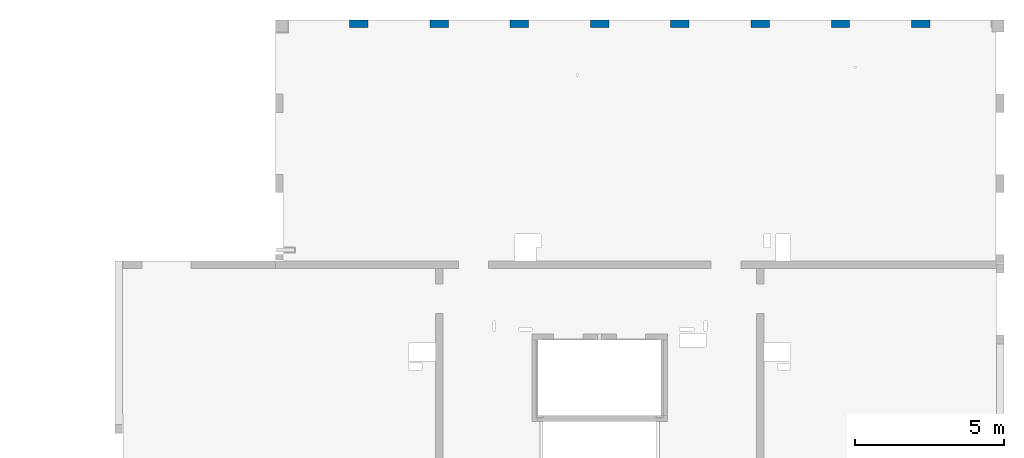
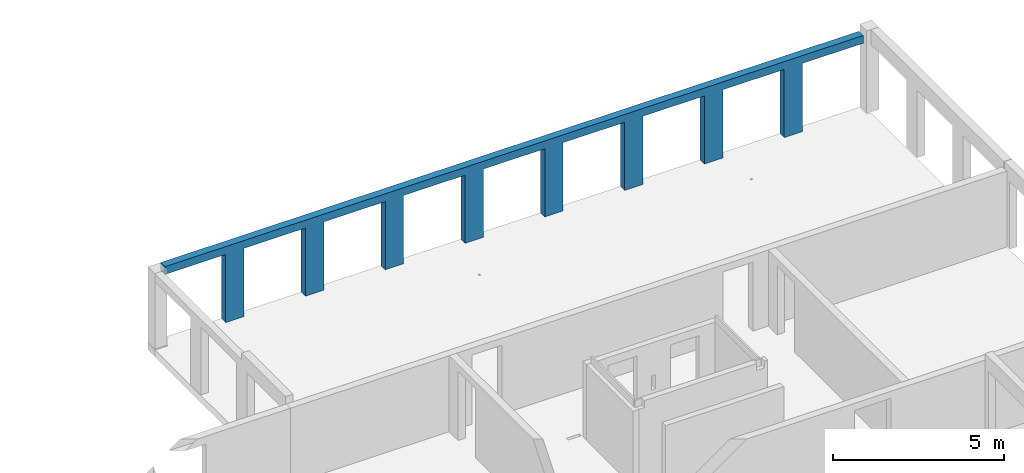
# One storey, part 5 of 9: 1 wall, 9 openings.
"""IFC2X3 building model written with IfcOpenShell, lengths in millimetres."""

from ifc_helpers import new_model, entity, si_unit, converted_unit, derived_unit, direction, frame, frame_2d, origin, place, context, subcontext, project, spatial, rectangle, extrude, material, layer, layer_set, layer_usage, type_object, element, save


model = new_model("IFC2X3")

# Units and contexts
model_context = context("Model", 3, precision=0.01, world=origin(), true_north=direction((6.12303176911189e-17, 1.0)))
body_context = subcontext(model_context, "Body", "Model", "MODEL_VIEW")
ifc_project = project(units=[si_unit("LENGTHUNIT", "METRE", prefix="MILLI"), si_unit("AREAUNIT", "SQUARE_METRE"), si_unit("VOLUMEUNIT", "CUBIC_METRE"), converted_unit("PLANEANGLEUNIT", "DEGREE", entity("IfcRatioMeasure", 0.0174532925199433), si_unit("PLANEANGLEUNIT", "RADIAN"), dimensions=[0, 0, 0, 0, 0, 0, 0]), si_unit("MASSUNIT", "GRAM", prefix="KILO"), derived_unit("MASSDENSITYUNIT", [(si_unit("MASSUNIT", "GRAM", prefix="KILO"), 1), (si_unit("LENGTHUNIT", "METRE"), -3)]), si_unit("TIMEUNIT", "SECOND"), si_unit("FREQUENCYUNIT", "HERTZ"), si_unit("THERMODYNAMICTEMPERATUREUNIT", "DEGREE_CELSIUS"), derived_unit("THERMALTRANSMITTANCEUNIT", [(si_unit("MASSUNIT", "GRAM", prefix="KILO"), 1), (si_unit("THERMODYNAMICTEMPERATUREUNIT", "KELVIN"), -1), (si_unit("TIMEUNIT", "SECOND"), -3)]), derived_unit("VOLUMETRICFLOWRATEUNIT", [(si_unit("LENGTHUNIT", "METRE"), 3), (si_unit("TIMEUNIT", "SECOND"), -1)]), si_unit("ELECTRICCURRENTUNIT", "AMPERE"), si_unit("ELECTRICVOLTAGEUNIT", "VOLT"), si_unit("POWERUNIT", "WATT"), si_unit("FORCEUNIT", "NEWTON", prefix="KILO"), si_unit("ILLUMINANCEUNIT", "LUX"), si_unit("LUMINOUSFLUXUNIT", "LUMEN"), si_unit("LUMINOUSINTENSITYUNIT", "CANDELA"), derived_unit("USERDEFINED", [(si_unit("MASSUNIT", "GRAM", prefix="KILO"), -1), (si_unit("LENGTHUNIT", "METRE"), -2), (si_unit("TIMEUNIT", "SECOND"), 3), (si_unit("LUMINOUSFLUXUNIT", "LUMEN"), 1)]), derived_unit("LINEARVELOCITYUNIT", [(si_unit("LENGTHUNIT", "METRE"), 1), (si_unit("TIMEUNIT", "SECOND"), -1)]), si_unit("PRESSUREUNIT", "PASCAL"), derived_unit("USERDEFINED", [(si_unit("LENGTHUNIT", "METRE"), -2), (si_unit("MASSUNIT", "GRAM", prefix="KILO"), 1), (si_unit("TIMEUNIT", "SECOND"), -2)])], contexts=[model_context])

# Site, building, storey
site_placement = place(None, origin())
site = spatial("IfcSite", under=ifc_project, at=site_placement, Name="Default", CompositionType="ELEMENT")
building_placement = place(site_placement, origin())
building = spatial("IfcBuilding", under=site, at=building_placement, Name="niet gebruiken", CompositionType="ELEMENT")
storey_placement = place(building_placement, frame((0.0, 0.0, 33390.0)))
storey = spatial("IfcBuildingStorey", under=building, at=storey_placement, Name="11 elfde verdieping", CompositionType="ELEMENT", Elevation=33390.0)

# Wall, openings
ifc_material = material(Name="NLRS_f2_beton ihwg")
ifc_layer = layer(ifc_material, 250.0)
ifc_layer_set = layer_set([ifc_layer], Name="Basic Wall:NLRS_21.21_WA_beton ihwg d=250_gen")
ifc_layer_usage = layer_usage(ifc_layer_set, "AXIS2", "NEGATIVE", 125.0)
wall_type = type_object("IfcWallType", Name="Basic Wall:NLRS_21.21_WA_beton ihwg d=250_gen", PredefinedType="STANDARD", material=ifc_layer_set)
wall_placement = place(storey_placement, frame((104970.0, 53131.0, -90.0), z_axis=(0.0, 0.0, 1.0), x_axis=(-1.0, 0.0, 0.0)))
wall = element("IfcWallStandardCase", 1, at=wall_placement, inside=storey, type_object=wall_type, material=ifc_layer_usage, Name="Basic Wall:NLRS_21.21_WA_beton ihwg d=250_gen", ObjectType="Basic Wall:NLRS_21.21_WA_beton ihwg d=250_gen", context=body_context, shape_type="SweptSolid", body=[
    extrude(rectangle(XDim=23640.0000000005, YDim=249.999999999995, at=frame_2d((11820.0000000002, 5.82645043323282e-13), x_axis=(-1.0, 0.0))), origin(), (0.0, 0.0, 1.0), 2720.00000000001),
])
opening_1_placement = place(wall_placement, origin())
element("IfcOpeningElement", 2, at=opening_1_placement, cuts=wall, Name="Basic Wall:NLRS_21.21_WA_beton ihwg d=250_gen", ObjectType="Opening", context=body_context, shape_type="SweptSolid", body=[
    extrude(rectangle(XDim=2440.0, YDim=2080.0, at=frame_2d((-8.64019966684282e-12, -2.1600499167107e-12), x_axis=(0.0, 1.0))), frame((22620.0, -1399.0, 1220.0), z_axis=(0.0, 1.0, 0.0), x_axis=(-1.0, 0.0, 0.0)), (0.0, 0.0, 1.0), 3048.0),
])
opening_2_placement = place(wall_placement, origin())
element("IfcOpeningElement", 3, at=opening_2_placement, cuts=wall, Name="Basic Wall:NLRS_21.21_WA_beton ihwg d=250_gen", ObjectType="Opening", context=body_context, shape_type="SweptSolid", body=[
    extrude(rectangle(XDim=2440.0, YDim=2080.0, at=frame_2d((-8.64019966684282e-12, 0.0), x_axis=(0.0, 1.0))), frame((19920.0, -1399.0, 1220.0), z_axis=(0.0, 1.0, 0.0), x_axis=(-1.0, 0.0, 0.0)), (0.0, 0.0, 1.0), 3048.0),
])
opening_3_placement = place(wall_placement, origin())
element("IfcOpeningElement", 4, at=opening_3_placement, cuts=wall, Name="Basic Wall:NLRS_21.21_WA_beton ihwg d=250_gen", ObjectType="Opening", context=body_context, shape_type="SweptSolid", body=[
    extrude(rectangle(XDim=2440.0, YDim=2080.0, at=frame_2d((-8.64019966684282e-12, -2.1600499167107e-12), x_axis=(0.0, 1.0))), frame((17220.0, -1399.0, 1220.0), z_axis=(0.0, 1.0, 0.0), x_axis=(-1.0, 0.0, 0.0)), (0.0, 0.0, 1.0), 3048.0),
])
opening_4_placement = place(wall_placement, origin())
element("IfcOpeningElement", 5, at=opening_4_placement, cuts=wall, Name="Basic Wall:NLRS_21.21_WA_beton ihwg d=250_gen", ObjectType="Opening", context=body_context, shape_type="SweptSolid", body=[
    extrude(rectangle(XDim=2440.0, YDim=2080.0, at=frame_2d((8.64019966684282e-12, 0.0), x_axis=(0.0, 1.0))), frame((14520.0, -1399.0, 1220.0), z_axis=(0.0, 1.0, 0.0), x_axis=(-1.0, 0.0, 0.0)), (0.0, 0.0, 1.0), 3048.0),
])
opening_5_placement = place(wall_placement, origin())
element("IfcOpeningElement", 6, at=opening_5_placement, cuts=wall, Name="Basic Wall:NLRS_21.21_WA_beton ihwg d=250_gen", ObjectType="Opening", context=body_context, shape_type="SweptSolid", body=[
    extrude(rectangle(XDim=2440.0, YDim=2080.0, at=frame_2d((-8.64019966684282e-12, -2.1600499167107e-12), x_axis=(0.0, 1.0))), frame((11820.0, -1399.0, 1220.0), z_axis=(0.0, 1.0, 0.0), x_axis=(-1.0, 0.0, 0.0)), (0.0, 0.0, 1.0), 3048.0),
])
opening_6_placement = place(wall_placement, origin())
element("IfcOpeningElement", 7, at=opening_6_placement, cuts=wall, Name="Basic Wall:NLRS_21.21_WA_beton ihwg d=250_gen", ObjectType="Opening", context=body_context, shape_type="SweptSolid", body=[
    extrude(rectangle(XDim=2440.0, YDim=2080.0, at=frame_2d((-8.64019966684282e-12, 0.0), x_axis=(0.0, 1.0))), frame((9120.0, -1399.0, 1220.0), z_axis=(0.0, 1.0, 0.0), x_axis=(-1.0, 0.0, 0.0)), (0.0, 0.0, 1.0), 3048.0),
])
opening_7_placement = place(wall_placement, origin())
element("IfcOpeningElement", 8, at=opening_7_placement, cuts=wall, Name="Basic Wall:NLRS_21.21_WA_beton ihwg d=250_gen", ObjectType="Opening", context=body_context, shape_type="SweptSolid", body=[
    extrude(rectangle(XDim=2440.0, YDim=2080.0, at=frame_2d((8.64019966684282e-12, 2.1600499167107e-12), x_axis=(0.0, 1.0))), frame((6420.0, -1399.0, 1220.0), z_axis=(0.0, 1.0, 0.0), x_axis=(-1.0, 0.0, 0.0)), (0.0, 0.0, 1.0), 3048.0),
])
opening_8_placement = place(wall_placement, origin())
element("IfcOpeningElement", 9, at=opening_8_placement, cuts=wall, Name="Basic Wall:NLRS_21.21_WA_beton ihwg d=250_gen", ObjectType="Opening", context=body_context, shape_type="SweptSolid", body=[
    extrude(rectangle(XDim=2440.0, YDim=2080.0, at=frame_2d((8.64019966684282e-12, 0.0), x_axis=(0.0, 1.0))), frame((3720.0, -1399.0, 1220.0), z_axis=(0.0, 1.0, 0.0), x_axis=(-1.0, 0.0, 0.0)), (0.0, 0.0, 1.0), 3048.0),
])
opening_9_placement = place(wall_placement, origin())
element("IfcOpeningElement", 10, at=opening_9_placement, cuts=wall, Name="Basic Wall:NLRS_21.21_WA_beton ihwg d=250_gen", ObjectType="Opening", context=body_context, shape_type="SweptSolid", body=[
    extrude(rectangle(XDim=2440.0, YDim=2080.0, at=frame_2d((-8.64019966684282e-12, -2.1600499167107e-12), x_axis=(0.0, 1.0))), frame((1020.0, -1399.0, 1220.0), z_axis=(0.0, 1.0, 0.0), x_axis=(-1.0, 0.0, 0.0)), (0.0, 0.0, 1.0), 3048.0),
])

save(model, "model.ifc")
